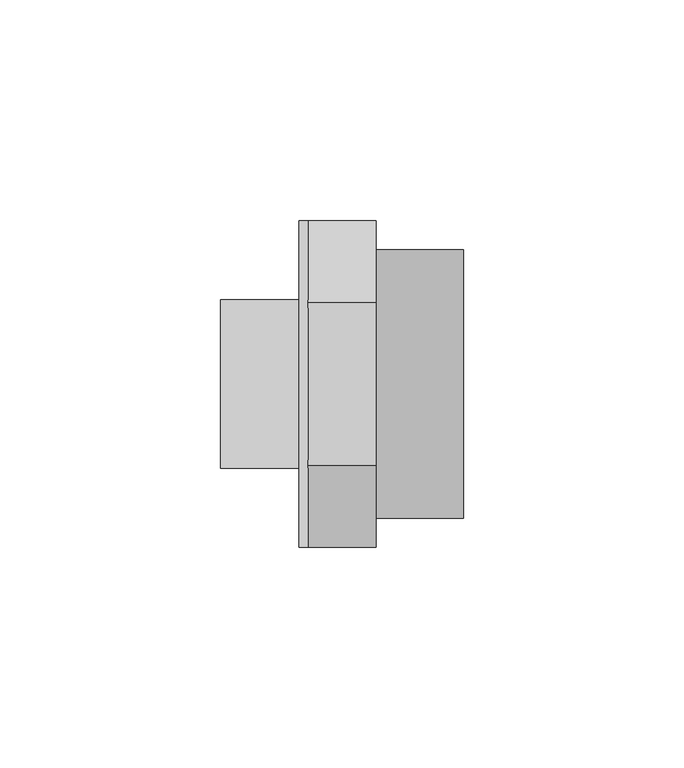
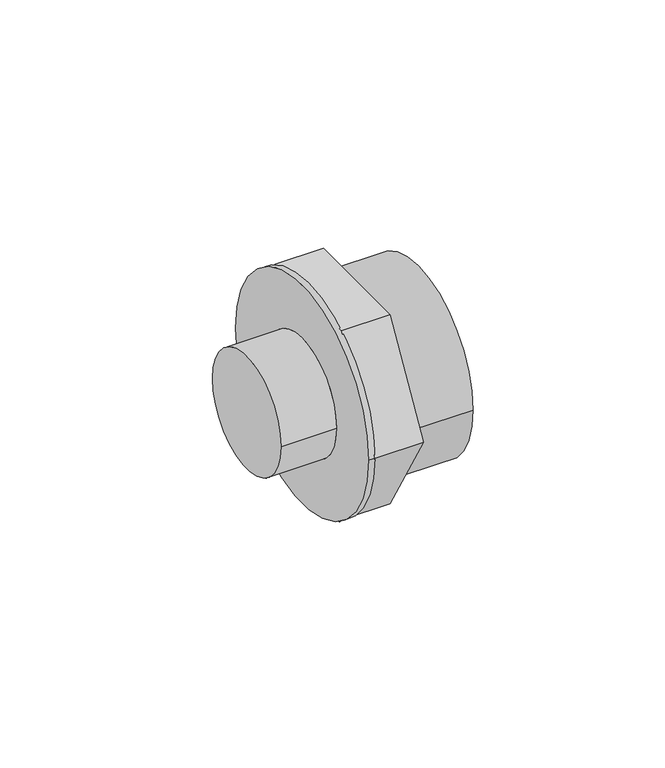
"""IFC4 building model written with IfcOpenShell, lengths in millimetres: pipe fitting geometry, 01011169 : Manchons MxF."""

from ifc_helpers import new_model, si_unit, frame, origin, place, context, project, spatial, circle_curve, source, transform, mapped, element, save
from ifc_brep_helpers import plane_surface, cylinder_surface, advanced_brep


def pipe_fitting_b03f4fcd(model_context):
    return source(origin(), model_context, "Body", "AdvancedBrep", [
        advanced_brep(
        [(7.75, -18.4752086, 32.0), (7.75, -36.9504172, 0.0), (7.75, -18.4752086, -32.0), (7.75, 18.4752086, -32.0), (7.75, 36.9504172, 0.0), (7.75, 18.4752086, 32.0), (7.75, -30.4, 0.0), (7.75, 30.4, 0.0), (-7.75, -18.4752086, 32.0), (-7.75, -36.9504172, 0.0), (-7.75, -18.4752086, -32.0), (-7.75, 18.4752086, -32.0), (-7.75, 36.9504172, 0.0), (-7.75, 18.4752086, 32.0), (27.5, -30.4, 0.0), (27.5, 30.4, 0.0), (-27.5, 19.05, 0.0), (-27.5, -19.05, 0.0), (-9.75, -19.05, 0.0), (-9.75, 19.05, 0.0), (-9.75, -36.9504172, 0.0), (-9.75, 36.9504172, 0.0)],
        [
            (0, 1),
            (1, 2),
            (2, 3),
            (3, 4),
            (4, 5),
            (5, 0),
            (6, 7, circle_curve(frame((7.75, 0.0, 0.0), z_axis=(-1.0, 0.0, 0.0), x_axis=(0.0, 1.0, 0.0)), 30.4)),
            (7, 6, circle_curve(frame((7.75, 0.0, 0.0), z_axis=(-1.0, 0.0, 0.0), x_axis=(0.0, 1.0, 0.0)), 30.4)),
            (0, 8),
            (8, 9),
            (9, 1),
            (9, 10),
            (10, 2),
            (10, 11),
            (11, 3),
            (11, 12),
            (12, 4),
            (12, 13),
            (13, 5),
            (13, 8),
            (14, 15, circle_curve(frame((27.5, 0.0, 0.0), z_axis=(1.0, 0.0, 0.0), x_axis=(0.0, 1.0, 0.0)), 30.4)),
            (15, 14, circle_curve(frame((27.5, 0.0, 0.0), z_axis=(1.0, 0.0, 0.0), x_axis=(0.0, 1.0, 0.0)), 30.4)),
            (15, 7),
            (6, 14),
            (16, 17, circle_curve(frame((-27.5, 0.0, 0.0), z_axis=(-1.0, 0.0, 0.0), x_axis=(0.0, -1.0, 0.0)), 19.05)),
            (17, 16, circle_curve(frame((-27.5, 0.0, 0.0), z_axis=(-1.0, 0.0, 0.0), x_axis=(0.0, -1.0, 0.0)), 19.05)),
            (17, 18),
            (18, 19, circle_curve(frame((-9.75, 0.0, 0.0), z_axis=(-1.0, 0.0, 0.0), x_axis=(0.0, -1.0, 0.0)), 19.05)),
            (19, 16),
            (19, 18, circle_curve(frame((-9.75, 0.0, 0.0), z_axis=(-1.0, 0.0, 0.0), x_axis=(0.0, -1.0, 0.0)), 19.05)),
            (8, 9, circle_curve(frame((-7.75, 0.0, 0.0), z_axis=(1.0, 0.0, 0.0), x_axis=(0.0, 1.0, 0.0)), 36.9504172)),
            (12, 13, circle_curve(frame((-7.75, 0.0, 0.0), z_axis=(1.0, 0.0, 0.0), x_axis=(0.0, 1.0, 0.0)), 36.9504172)),
            (13, 8, circle_curve(frame((-7.75, 0.0, 0.0), z_axis=(1.0, 0.0, 0.0), x_axis=(0.0, 1.0, 0.0)), 36.9504172)),
            (11, 12, circle_curve(frame((-7.75, 0.0, 0.0), z_axis=(1.0, 0.0, 0.0), x_axis=(0.0, 1.0, 0.0)), 36.9504172)),
            (9, 10, circle_curve(frame((-7.75, 0.0, 0.0), z_axis=(1.0, 0.0, 0.0), x_axis=(0.0, 1.0, 0.0)), 36.9504172)),
            (10, 11, circle_curve(frame((-7.75, 0.0, 0.0), z_axis=(1.0, 0.0, 0.0), x_axis=(0.0, 1.0, 0.0)), 36.9504172)),
            (20, 21, circle_curve(frame((-9.75, 0.0, 0.0), z_axis=(-1.0, 0.0, 0.0), x_axis=(0.0, 1.0, 0.0)), 36.9504172)),
            (21, 20, circle_curve(frame((-9.75, 0.0, 0.0), z_axis=(-1.0, 0.0, 0.0), x_axis=(0.0, 1.0, 0.0)), 36.9504172)),
            (21, 12),
            (9, 20),
        ],
        [
            plane_surface(frame((7.75, -18.4752086, 32.0), z_axis=(1.0000000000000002, 0.0, 0.0), x_axis=(0.0, -0.5000000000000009, -0.8660254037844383))),
            plane_surface(frame((7.75, -18.4752086, 32.0), z_axis=(0.0, -0.8660254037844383, 0.5000000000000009), x_axis=(-1.0, 0.0, 0.0))),
            plane_surface(frame((7.75, -36.9504172, 0.0), z_axis=(0.0, -0.8660254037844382, -0.5000000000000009), x_axis=(-1.0, 0.0, 0.0))),
            plane_surface(frame((7.75, -18.4752086, -32.0), z_axis=(0.0, 0.0, -1.0), x_axis=(-1.0, 0.0, 0.0))),
            plane_surface(frame((7.75, 18.4752086, -32.0), z_axis=(0.0, 0.8660254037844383, -0.5000000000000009), x_axis=(-1.0, 0.0, 0.0))),
            plane_surface(frame((7.75, 36.9504172, 0.0), z_axis=(0.0, 0.8660254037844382, 0.500000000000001), x_axis=(-1.0, 0.0, 0.0))),
            plane_surface(frame((7.75, 18.4752086, 32.0), z_axis=(0.0, 0.0, 1.0), x_axis=(-1.0, 0.0, 0.0))),
            plane_surface(frame((27.5, 0.0, 0.0), z_axis=(1.0, 0.0, 0.0), x_axis=(0.0, 0.0, 1.0))),
            cylinder_surface(frame((0.0, 0.0, 0.0), z_axis=(-1.0, 0.0, 0.0), x_axis=(0.0, 1.0, 0.0)), 30.4),
            plane_surface(frame((-27.5, 0.0, 0.0), z_axis=(-1.0, 0.0, 0.0), x_axis=(0.0, 0.0, 1.0))),
            cylinder_surface(frame((0.0, 0.0, 0.0), z_axis=(1.0, 0.0, 0.0), x_axis=(0.0, -1.0, 0.0)), 19.05),
            plane_surface(frame((-7.75, 36.9504172, 0.0), z_axis=(1.0, 0.0, 0.0), x_axis=(0.0, 0.0, 1.0))),
            plane_surface(frame((-9.75, 36.9504172, 0.0), z_axis=(-1.0, 0.0, 0.0), x_axis=(0.0, 0.0, -1.0))),
            cylinder_surface(frame((-9.75, 0.0, 0.0), z_axis=(1.0, 0.0, 0.0), x_axis=(0.0, 1.0, 0.0)), 36.9504172),
        ],
        [
            (0, [[1, 2, 3, 4, 5, 6], [7, 8]]),
            (1, [[-1, 9, 10, 11]]),
            (2, [[-2, -11, 12, 13]]),
            (3, [[-3, -13, 14, 15]]),
            (4, [[-4, -15, 16, 17]]),
            (5, [[-5, -17, 18, 19]]),
            (6, [[-6, -19, 20, -9]]),
            (7, [[21, 22]]),
            (8, [[-22, 23, -7, 24]]),
            (8, [[-21, -24, -8, -23]]),
            (9, [[25, 26]]),
            (10, [[-26, 27, 28, 29]]),
            (10, [[-25, -29, 30, -27]]),
            (11, [[31, -10]]),
            (11, [[32, -18]]),
            (11, [[33, -20]]),
            (11, [[34, -16]]),
            (11, [[35, -12]]),
            (11, [[36, -14]]),
            (12, [[37, 38], [-28, -30]]),
            (13, [[-38, 39, -34, -36, -35, 40]]),
            (13, [[-37, -40, -31, -33, -32, -39]]),
        ],
    ),
    ])


if __name__ == "__main__":
    model = new_model("IFC4")
    model_context = context("Model", 3, world=origin())
    ifc_project = project(units=[si_unit("LENGTHUNIT", "METRE", prefix="MILLI")], contexts=[model_context])
    site = spatial("IfcSite", under=ifc_project)
    building = spatial("IfcBuilding", under=site)
    placement = place(None, origin())
    pipe_fitting_shape = pipe_fitting_b03f4fcd(model_context)
    element("IfcPipeFitting", 1, ObjectType="01011169 : Manchons MxF", at=placement, inside=building, context=model_context, shape_type="MappedRepresentation", body=[
        mapped(pipe_fitting_shape, transform((0.0, 0.0, 0.0), x_axis=(1.0, 0.0, 0.0), y_axis=(0.0, 1.0, 0.0), z_axis=(0.0, 0.0, 1.0))),
    ])
    save(model, "model.ifc")
